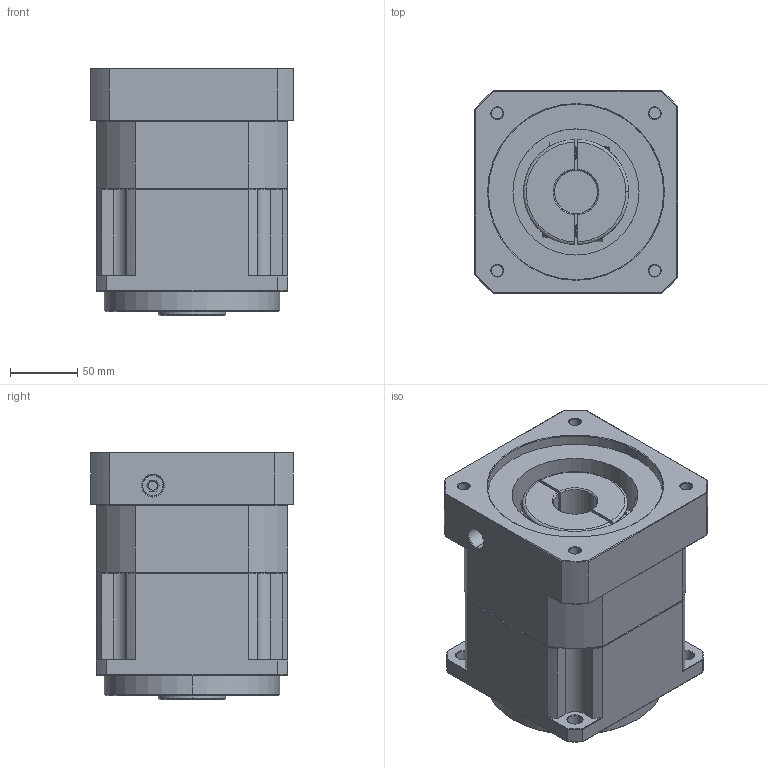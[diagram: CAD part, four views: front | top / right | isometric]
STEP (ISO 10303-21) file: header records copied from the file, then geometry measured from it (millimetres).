
FILE_DESCRIPTION (( 'STEP AP214' ), '1' );
FILE_NAME ('ZPB142-K35-L1-P1-32-130-165-M10.step', '2024-07-05T00:09:28', ( 'Windows 蚚誧' ), ( 'Organization' ), 'SwSTEP 2.0', 'SolidWorks 2016', '' );
FILE_SCHEMA (( 'AUTOMOTIVE_DESIGN' ));
Length unit declared in the file: millimetre
Products named in the file (1): ZPB142-K35-L1-P1-32-130-165-M10
Bounding box: 150 x 150 x 183.5 mm (x, y, z)
Surface area: 194988.9 mm2 (no closed solid volume)
Topology: 0 solids, 36 shells, 1749 faces, 4667 edges, 2994 vertices
Faces by surface type: plane 906, bspline 376, cone 257, cylinder 210
Entity records: 86372 total; most frequent: CARTESIAN_POINT 37611, ORIENTED_EDGE 9330, DIRECTION 7169, EDGE_CURVE 4667, LINE 3121, VECTOR 3121, VERTEX_POINT 2994, AXIS2_PLACEMENT_3D 2024
